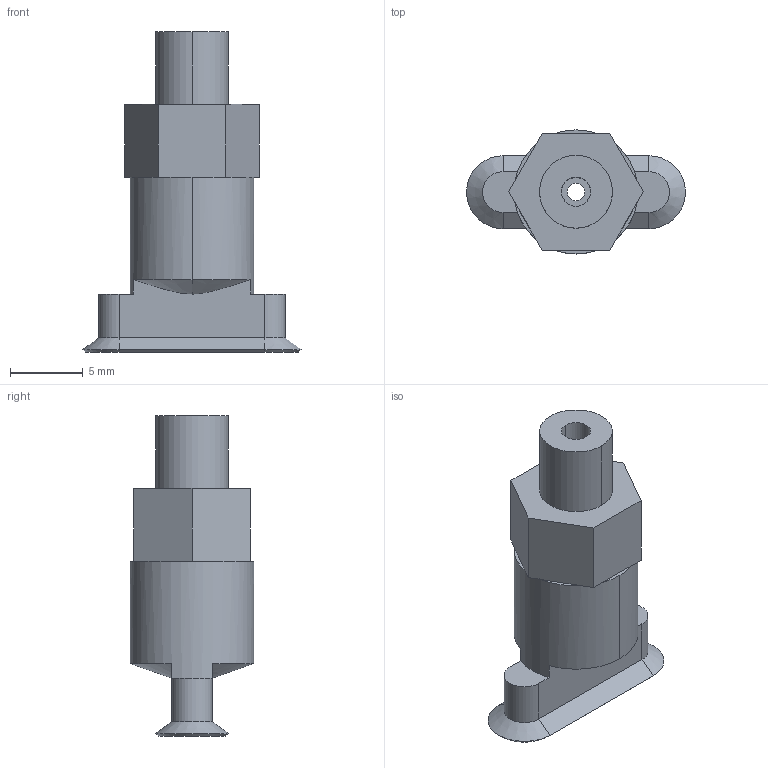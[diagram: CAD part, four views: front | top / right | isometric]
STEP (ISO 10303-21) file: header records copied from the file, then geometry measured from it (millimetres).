
FILE_DESCRIPTION (( 'STEP AP214' ), '1' );
FILE_NAME ('SGON-15x5-HT1-60.STEP', '2021-07-02T05:12:17', ( '微软用户' ), ( '微软中国' ), 'SwSTEP 2.0', 'SolidWorks 2018', '' );
FILE_SCHEMA (( 'AUTOMOTIVE_DESIGN' ));
Length unit declared in the file: millimetre
Products named in the file (1): SGON-15x5-HT1-60
Bounding box: 15 x 8.5 x 22 mm (x, y, z)
Volume: 882 mm3; surface area: 862.2 mm2
Topology: 1 solids, 2 shells, 56 faces, 127 edges, 76 vertices
Faces by surface type: plane 33, cylinder 12, cone 11
Entity records: 1673 total; most frequent: CARTESIAN_POINT 350, DIRECTION 285, ORIENTED_EDGE 254, EDGE_CURVE 127, AXIS2_PLACEMENT_3D 105, VERTEX_POINT 76, VECTOR 75, LINE 75
